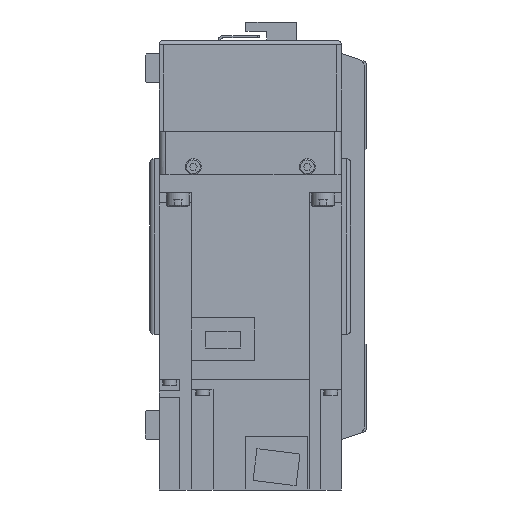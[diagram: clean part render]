
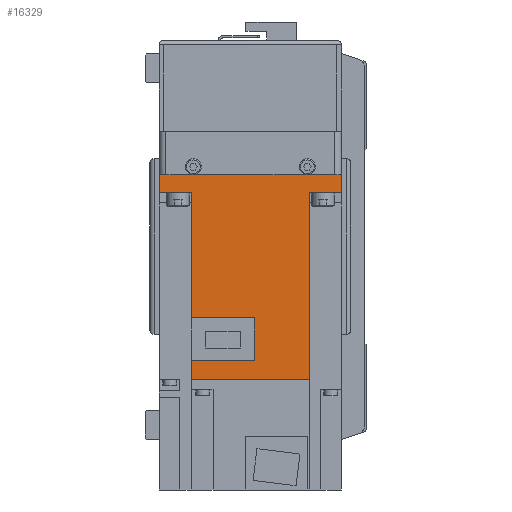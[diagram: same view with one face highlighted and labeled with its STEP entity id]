
A CAD part, left-side view. The second image highlights one B-rep face of the part: STEP entity #16329.
In plain terms, the highlighted planar face has unit normal (-1, 0, 0) as drawn and (1, 0, 0) by its records, which use the part's own axes.
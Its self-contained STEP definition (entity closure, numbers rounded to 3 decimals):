
#1777=ORIENTED_EDGE('',*,*,#6285,.F.);
#1778=ORIENTED_EDGE('',*,*,#6286,.F.);
#1779=ORIENTED_EDGE('',*,*,#6287,.F.);
#1780=ORIENTED_EDGE('',*,*,#6288,.T.);
#1781=ORIENTED_EDGE('',*,*,#6289,.F.);
#1782=ORIENTED_EDGE('',*,*,#6290,.T.);
#1783=ORIENTED_EDGE('',*,*,#6291,.T.);
#1784=ORIENTED_EDGE('',*,*,#6292,.F.);
#1785=ORIENTED_EDGE('',*,*,#6293,.F.);
#1786=ORIENTED_EDGE('',*,*,#6294,.F.);
#1787=ORIENTED_EDGE('',*,*,#6295,.F.);
#1788=ORIENTED_EDGE('',*,*,#6296,.F.);
#6285=EDGE_CURVE('',#8599,#8600,#10213,.T.);
#6286=EDGE_CURVE('',#8601,#8599,#10214,.T.);
#6287=EDGE_CURVE('',#8602,#8601,#10215,.T.);
#6288=EDGE_CURVE('',#8602,#8603,#10216,.T.);
#6289=EDGE_CURVE('',#8604,#8603,#10217,.T.);
#6290=EDGE_CURVE('',#8604,#8605,#10218,.T.);
#6291=EDGE_CURVE('',#8605,#8606,#10219,.T.);
#6292=EDGE_CURVE('',#8607,#8606,#10220,.T.);
#6293=EDGE_CURVE('',#8608,#8607,#10221,.T.);
#6294=EDGE_CURVE('',#8609,#8608,#10222,.T.);
#6295=EDGE_CURVE('',#8610,#8609,#10223,.T.);
#6296=EDGE_CURVE('',#8600,#8610,#10224,.T.);
#8599=VERTEX_POINT('',#24598);
#8600=VERTEX_POINT('',#24599);
#8601=VERTEX_POINT('',#24601);
#8602=VERTEX_POINT('',#24603);
#8603=VERTEX_POINT('',#24605);
#8604=VERTEX_POINT('',#24607);
#8605=VERTEX_POINT('',#24609);
#8606=VERTEX_POINT('',#24611);
#8607=VERTEX_POINT('',#24613);
#8608=VERTEX_POINT('',#24615);
#8609=VERTEX_POINT('',#24617);
#8610=VERTEX_POINT('',#24619);
#10213=LINE('',#24597,#11799);
#10214=LINE('',#24600,#11800);
#10215=LINE('',#24602,#11801);
#10216=LINE('',#24604,#11802);
#10217=LINE('',#24606,#11803);
#10218=LINE('',#24608,#11804);
#10219=LINE('',#24610,#11805);
#10220=LINE('',#24612,#11806);
#10221=LINE('',#24614,#11807);
#10222=LINE('',#24616,#11808);
#10223=LINE('',#24618,#11809);
#10224=LINE('',#24620,#11810);
#11799=VECTOR('',#19605,1000.);
#11800=VECTOR('',#19606,1000.);
#11801=VECTOR('',#19607,1000.);
#11802=VECTOR('',#19608,1000.);
#11803=VECTOR('',#19609,1000.);
#11804=VECTOR('',#19610,1000.);
#11805=VECTOR('',#19611,1000.);
#11806=VECTOR('',#19612,1000.);
#11807=VECTOR('',#19613,1000.);
#11808=VECTOR('',#19614,1000.);
#11809=VECTOR('',#19615,1000.);
#11810=VECTOR('',#19616,1000.);
#13377=EDGE_LOOP('',(#1777,#1778,#1779,#1780,#1781,#1782,#1783,#1784,#1785,
#1786,#1787,#1788));
#14569=FACE_BOUND('',#13377,.T.);
#15654=PLANE('',#17463);
#16329=ADVANCED_FACE('',(#14569),#15654,.F.);
#17463=AXIS2_PLACEMENT_3D('',#24596,#19603,#19604);
#19603=DIRECTION('',(-1.,0.,0.));
#19604=DIRECTION('',(0.,0.,1.));
#19605=DIRECTION('',(0.,0.,1.));
#19606=DIRECTION('',(0.,-1.,0.));
#19607=DIRECTION('',(0.,0.,-1.));
#19608=DIRECTION('',(0.,-1.,0.));
#19609=DIRECTION('',(0.,0.,-1.));
#19610=DIRECTION('',(0.,-1.,0.));
#19611=DIRECTION('',(0.,0.,-1.));
#19612=DIRECTION('',(0.,-1.,0.));
#19613=DIRECTION('',(0.,0.,-1.));
#19614=DIRECTION('',(0.,-1.,0.));
#19615=DIRECTION('',(0.,0.,-1.));
#19616=DIRECTION('',(0.,-1.,0.));
#24596=CARTESIAN_POINT('',(40.,89.8,40.));
#24597=CARTESIAN_POINT('',(40.,81.4,-26.));
#24598=CARTESIAN_POINT('',(40.,81.4,-25.95));
#24599=CARTESIAN_POINT('',(40.,81.4,1.8));
#24600=CARTESIAN_POINT('',(40.,158.,-25.95));
#24601=CARTESIAN_POINT('',(40.,89.8,-25.95));
#24602=CARTESIAN_POINT('',(40.,89.8,40.));
#24603=CARTESIAN_POINT('',(40.,89.8,25.95));
#24604=CARTESIAN_POINT('',(40.,158.,25.95));
#24605=CARTESIAN_POINT('',(40.,8.,25.95));
#24606=CARTESIAN_POINT('',(40.,8.,40.));
#24607=CARTESIAN_POINT('',(40.,8.,40.));
#24608=CARTESIAN_POINT('',(40.,89.8,40.));
#24609=CARTESIAN_POINT('',(40.,0.,40.));
#24610=CARTESIAN_POINT('',(40.,0.,40.));
#24611=CARTESIAN_POINT('',(40.,0.,-40.));
#24612=CARTESIAN_POINT('',(40.,89.8,-40.));
#24613=CARTESIAN_POINT('',(40.,8.,-40.));
#24614=CARTESIAN_POINT('',(40.,8.,40.));
#24615=CARTESIAN_POINT('',(40.,8.,-25.95));
#24616=CARTESIAN_POINT('',(40.,158.,-25.95));
#24617=CARTESIAN_POINT('',(40.,62.8,-25.95));
#24618=CARTESIAN_POINT('',(40.,62.8,1.8));
#24619=CARTESIAN_POINT('',(40.,62.8,1.8));
#24620=CARTESIAN_POINT('',(40.,81.4,1.8));
